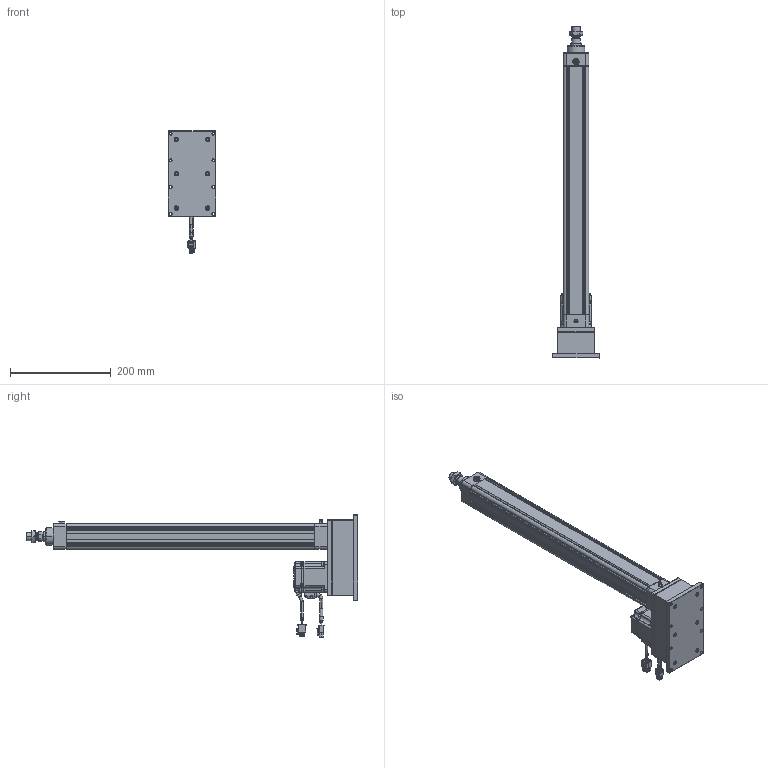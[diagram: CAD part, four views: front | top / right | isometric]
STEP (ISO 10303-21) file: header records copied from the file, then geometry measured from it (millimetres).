
FILE_DESCRIPTION((''),'2;1');
FILE_NAME('ASM0001_ASM','2020-04-18T',('ASUS20200'),(''),'CREO PARAMETRIC BY PTC INC, 2014190','CREO PARAMETRIC BY PTC INC, 2014190','');
FILE_SCHEMA(('CONFIG_CONTROL_DESIGN'));
Products named in the file (29): HE40-D-P-001-X1; HE40-D-P-002-X1; HE40-D-P-003-X1; 6200ZZ; SLM-01; YZ-M6X1; JDB202820; HE40-P-010-X1-200W; _MHMF022L1A2; _CABLE_MOTOR_BOTTOM_03; _CABLE_MOTOR_TOP_03; _MOTOR_CONNECTOR_2; _CABLE_BRAKE_BOTTOM_03; _CABLE_BRAKE_TOP_03; _MHMF_CONNECTOR_9_PIN_A6; MHMF022L1A2M2_1_ASM; MHMF022L1A2M2_ASM; JX5X5X20; TD-5; M5X20; LM-M6X1; HE40-P-012-X2; HE40-P-014-X1; M4X65; HE40-D-P-005-X1; HE40-D-P-004-X1; HE40-D-P-008-X1; LGLM-M6-22; ASM0001_ASM
Assembly tree (45 placements, depth 4):
  ASM0001_ASM
    HE40-D-P-001-X1
    HE40-D-P-002-X1
    HE40-D-P-003-X1
    6200ZZ
    SLM-01
    YZ-M6X1
    JDB202820
    HE40-P-010-X1-200W
    MHMF022L1A2M2_ASM
      MHMF022L1A2M2_1_ASM
        _MHMF022L1A2
        _CABLE_MOTOR_BOTTOM_03
        _CABLE_MOTOR_TOP_03
        _MOTOR_CONNECTOR_2
        _CABLE_BRAKE_BOTTOM_03
        _CABLE_BRAKE_TOP_03
        _MHMF_CONNECTOR_9_PIN_A6
    JX5X5X20
    TD-5  x4
    M5X20  x4
    LM-M6X1  x4
    HE40-P-012-X2
    HE40-P-014-X1
    M4X65  x6
    HE40-D-P-005-X1
    HE40-D-P-004-X1
    HE40-D-P-008-X1
    LGLM-M6-22  x4
Bounding box: 95 x 657.5 x 242.2 mm (x, y, z)
Volume: 1227103.5 mm3; surface area: 460679.9 mm2
Topology: 43 solids, 69 shells, 2771 faces, 6631 edges, 4089 vertices
Faces by surface type: plane 1162, cylinder 773, cone 656, torus 142, sphere 34, bspline 4
Entity records: 72102 total; most frequent: CARTESIAN_POINT 13619, DIRECTION 12812, ORIENTED_EDGE 11514, EDGE_CURVE 5803, AXIS2_PLACEMENT_3D 4766, VERTEX_POINT 3608, VECTOR 3280, LINE 3280
